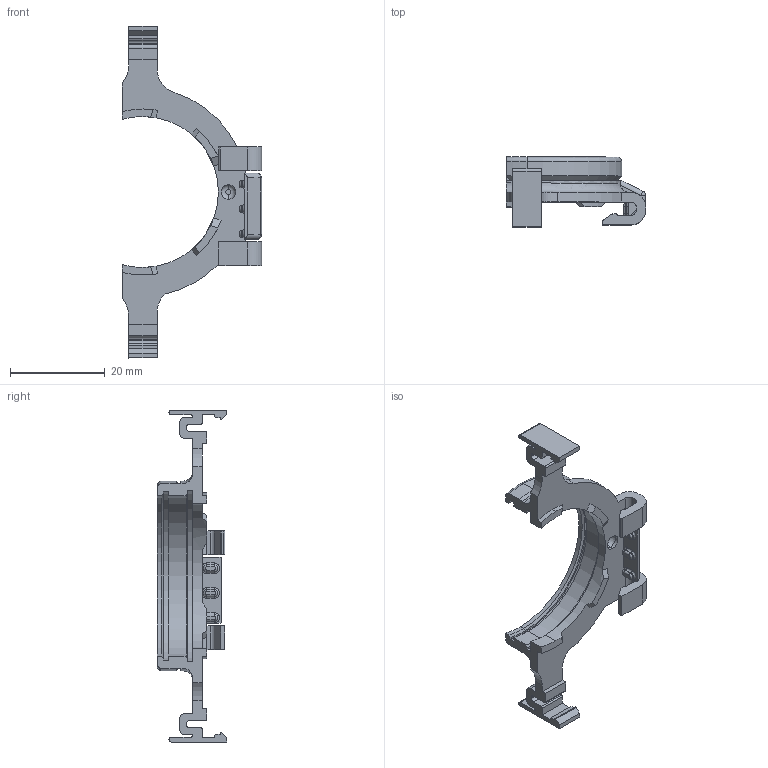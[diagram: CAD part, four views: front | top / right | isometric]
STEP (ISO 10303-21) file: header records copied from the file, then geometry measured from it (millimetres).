
FILE_DESCRIPTION (( 'STEP AP203' ), '1' );
FILE_NAME ('LH1121-022-001_006.STEP', '2022-04-21T15:29:27', ( '' ), ( '' ), 'SwSTEP 2.0', 'SolidWorks 2020', '' );
FILE_SCHEMA (( 'CONFIG_CONTROL_DESIGN' ));
Length unit declared in the file: millimetre
Products named in the file (1): LH1121-022-001_006
Bounding box: 29.34 x 14.7 x 70 mm (x, y, z)
Volume: 3250 mm3; surface area: 4076.5 mm2
Topology: 1 solids, 1 shells, 299 faces, 809 edges, 521 vertices
Faces by surface type: plane 153, cylinder 97, torus 20, bspline 16, cone 9, sphere 4
Entity records: 10497 total; most frequent: CARTESIAN_POINT 2896, ORIENTED_EDGE 1618, DIRECTION 1544, EDGE_CURVE 809, AXIS2_PLACEMENT_3D 521, VERTEX_POINT 521, VECTOR 502, LINE 502
